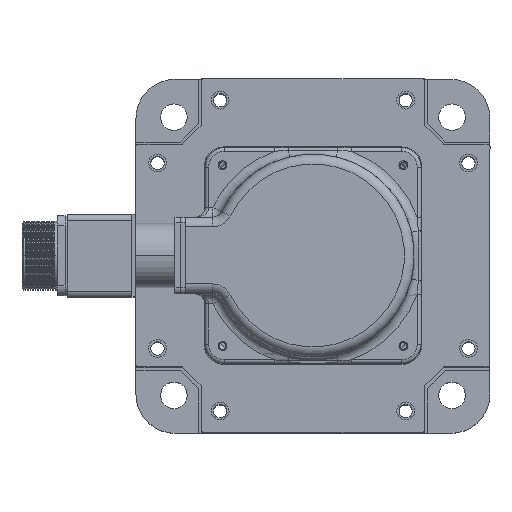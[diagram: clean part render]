
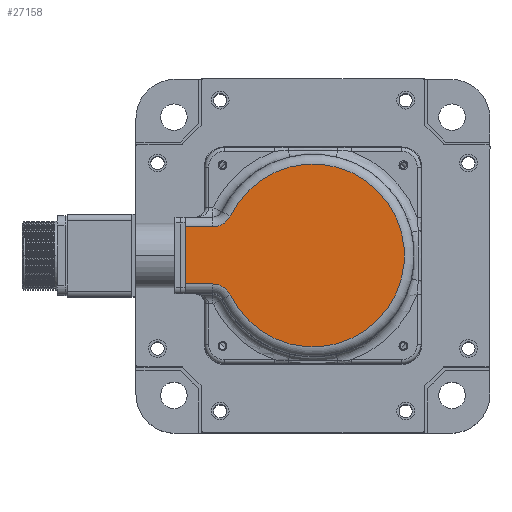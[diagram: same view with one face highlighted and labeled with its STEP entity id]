
A CAD part, top view. The second image highlights one B-rep face of the part: STEP entity #27158.
In plain terms, the highlighted planar face has unit normal (0, 0, 1).
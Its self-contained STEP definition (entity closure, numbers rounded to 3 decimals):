
#375 = CARTESIAN_POINT ( 'NONE',  ( -41.901, 20.164, 382. ) ) ;
#1359 = CIRCLE ( 'NONE', #19970, 46.5 ) ;
#2057 = PLANE ( 'NONE',  #10669 ) ;
#4243 = CARTESIAN_POINT ( 'NONE',  ( -50.912, -24.5, 382. ) ) ;
#4303 = DIRECTION ( 'NONE',  ( -1., 0., 0. ) ) ;
#4801 = DIRECTION ( 'NONE',  ( 0., 0., 1. ) ) ;
#5437 = VERTEX_POINT ( 'NONE', #8037 ) ;
#6142 = VERTEX_POINT ( 'NONE', #6684 ) ;
#6684 = CARTESIAN_POINT ( 'NONE',  ( -65., 14.5, 382. ) ) ;
#7021 = DIRECTION ( 'NONE',  ( 0., 0., 1. ) ) ;
#8037 = CARTESIAN_POINT ( 'NONE',  ( -50.912, 14.5, 382. ) ) ;
#8254 = LINE ( 'NONE', #15897, #10120 ) ;
#8496 = EDGE_CURVE ( 'NONE', #23475, #17076, #8254, .T. ) ;
#9351 = EDGE_CURVE ( 'NONE', #23475, #6142, #23643, .T. ) ;
#9368 = LINE ( 'NONE', #19508, #19747 ) ;
#9971 = ORIENTED_EDGE ( 'NONE', *, *, #9351, .F. ) ;
#10120 = VECTOR ( 'NONE', #29066, 1000. ) ;
#10348 = DIRECTION ( 'NONE',  ( 0., 1., 0. ) ) ;
#10669 = AXIS2_PLACEMENT_3D ( 'NONE', #14546, #25215, #22207 ) ;
#11360 = CIRCLE ( 'NONE', #31054, 10. ) ;
#11532 = EDGE_CURVE ( 'NONE', #5437, #6142, #9368, .T. ) ;
#13227 = EDGE_CURVE ( 'NONE', #22268, #17076, #14258, .T. ) ;
#14258 = CIRCLE ( 'NONE', #32897, 10. ) ;
#14461 = ORIENTED_EDGE ( 'NONE', *, *, #18899, .F. ) ;
#14546 = CARTESIAN_POINT ( 'NONE',  ( 0., 0., 382. ) ) ;
#14595 = ORIENTED_EDGE ( 'NONE', *, *, #11532, .T. ) ;
#15897 = CARTESIAN_POINT ( 'NONE',  ( -47.666, -14.5, 382. ) ) ;
#17076 = VERTEX_POINT ( 'NONE', #27435 ) ;
#17875 = CARTESIAN_POINT ( 'NONE',  ( -41.901, -20.164, 382. ) ) ;
#18220 = ORIENTED_EDGE ( 'NONE', *, *, #23319, .T. ) ;
#18899 = EDGE_CURVE ( 'NONE', #5437, #29649, #11360, .T. ) ;
#19198 = CARTESIAN_POINT ( 'NONE',  ( -50.912, 24.5, 382. ) ) ;
#19508 = CARTESIAN_POINT ( 'NONE',  ( 0., 14.5, 382. ) ) ;
#19617 = CARTESIAN_POINT ( 'NONE',  ( 0., 0., 382. ) ) ;
#19747 = VECTOR ( 'NONE', #29682, 1000. ) ;
#19970 = AXIS2_PLACEMENT_3D ( 'NONE', #19617, #4801, #4303 ) ;
#20157 = ORIENTED_EDGE ( 'NONE', *, *, #8496, .T. ) ;
#20236 = VECTOR ( 'NONE', #10348, 1000. ) ;
#21025 = EDGE_LOOP ( 'NONE', ( #14461, #14595, #9971, #20157, #30751, #18220 ) ) ;
#21696 = DIRECTION ( 'NONE',  ( -1., 0., 0. ) ) ;
#22207 = DIRECTION ( 'NONE',  ( -1., 0., 0. ) ) ;
#22268 = VERTEX_POINT ( 'NONE', #17875 ) ;
#23319 = EDGE_CURVE ( 'NONE', #22268, #29649, #1359, .T. ) ;
#23475 = VERTEX_POINT ( 'NONE', #25625 ) ;
#23643 = LINE ( 'NONE', #31159, #20236 ) ;
#25215 = DIRECTION ( 'NONE',  ( 0., 0., 1. ) ) ;
#25625 = CARTESIAN_POINT ( 'NONE',  ( -65., -14.5, 382. ) ) ;
#27158 = ADVANCED_FACE ( 'NONE', ( #29723 ), #2057, .T. ) ;
#27397 = DIRECTION ( 'NONE',  ( 0., 0., 1. ) ) ;
#27435 = CARTESIAN_POINT ( 'NONE',  ( -50.912, -14.5, 382. ) ) ;
#29066 = DIRECTION ( 'NONE',  ( 1., 0., 0. ) ) ;
#29649 = VERTEX_POINT ( 'NONE', #375 ) ;
#29682 = DIRECTION ( 'NONE',  ( -1., 0., 0. ) ) ;
#29723 = FACE_OUTER_BOUND ( 'NONE', #21025, .T. ) ;
#29902 = DIRECTION ( 'NONE',  ( -1., 0., 0. ) ) ;
#30751 = ORIENTED_EDGE ( 'NONE', *, *, #13227, .F. ) ;
#31054 = AXIS2_PLACEMENT_3D ( 'NONE', #19198, #7021, #21696 ) ;
#31159 = CARTESIAN_POINT ( 'NONE',  ( -65., 0., 382. ) ) ;
#32897 = AXIS2_PLACEMENT_3D ( 'NONE', #4243, #27397, #29902 ) ;
